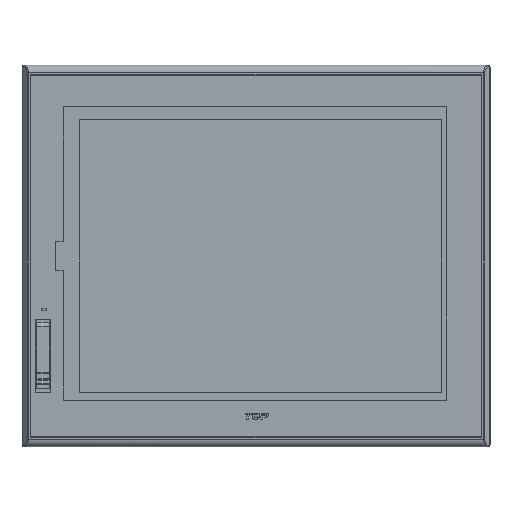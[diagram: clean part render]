
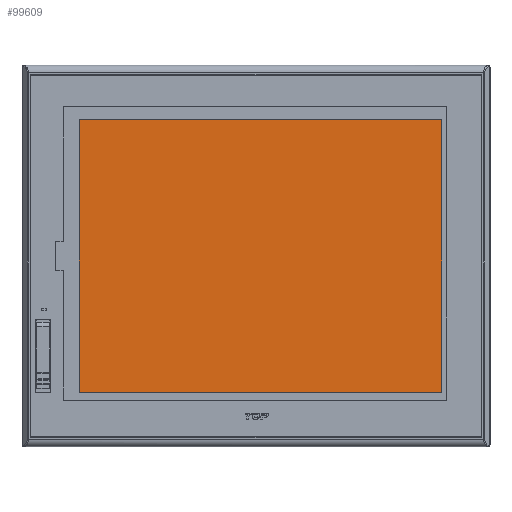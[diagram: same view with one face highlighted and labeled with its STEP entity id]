
A CAD part, top view. The second image highlights one B-rep face of the part: STEP entity #99609.
In plain terms, the highlighted planar face has unit normal (0, 0, 1).
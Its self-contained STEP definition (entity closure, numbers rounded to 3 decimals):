
#18227=DIRECTION('',(0.,-1.,0.));
#18228=VECTOR('',#18227,186.6);
#18229=CARTESIAN_POINT('',(-121.,100.8,-0.47));
#18230=LINE('',#18229,#18228);
#18231=DIRECTION('',(-1.,0.,0.));
#18232=VECTOR('',#18231,248.);
#18233=CARTESIAN_POINT('',(127.,100.8,-0.47));
#18234=LINE('',#18233,#18232);
#18235=DIRECTION('',(0.,1.,0.));
#18236=VECTOR('',#18235,186.6);
#18237=CARTESIAN_POINT('',(127.,-85.8,-0.47));
#18238=LINE('',#18237,#18236);
#18239=DIRECTION('',(1.,0.,0.));
#18240=VECTOR('',#18239,248.);
#18241=CARTESIAN_POINT('',(-121.,-85.8,-0.47));
#18242=LINE('',#18241,#18240);
#61218=CARTESIAN_POINT('',(-121.,100.8,-0.47));
#61219=CARTESIAN_POINT('',(-121.,-85.8,-0.47));
#61220=VERTEX_POINT('',#61218);
#61221=VERTEX_POINT('',#61219);
#61222=CARTESIAN_POINT('',(127.,-85.8,-0.47));
#61223=VERTEX_POINT('',#61222);
#61224=CARTESIAN_POINT('',(127.,100.8,-0.47));
#61225=VERTEX_POINT('',#61224);
#99598=CARTESIAN_POINT('',(0.,0.,-0.47));
#99599=DIRECTION('',(0.,0.,1.));
#99600=DIRECTION('',(1.,0.,0.));
#99601=AXIS2_PLACEMENT_3D('',#99598,#99599,#99600);
#99602=PLANE('',#99601);
#99603=ORIENTED_EDGE('',*,*,#99550,.F.);
#99604=ORIENTED_EDGE('',*,*,#99565,.F.);
#99605=ORIENTED_EDGE('',*,*,#99579,.F.);
#99606=ORIENTED_EDGE('',*,*,#99592,.F.);
#99607=EDGE_LOOP('',(#99603,#99604,#99605,#99606));
#99608=FACE_OUTER_BOUND('',#99607,.F.);
#99609=ADVANCED_FACE('',(#99608),#99602,.T.);
#99550=EDGE_CURVE('',#61220,#61221,#18230,.T.);
#99565=EDGE_CURVE('',#61225,#61220,#18234,.T.);
#99579=EDGE_CURVE('',#61223,#61225,#18238,.T.);
#99592=EDGE_CURVE('',#61221,#61223,#18242,.T.);
